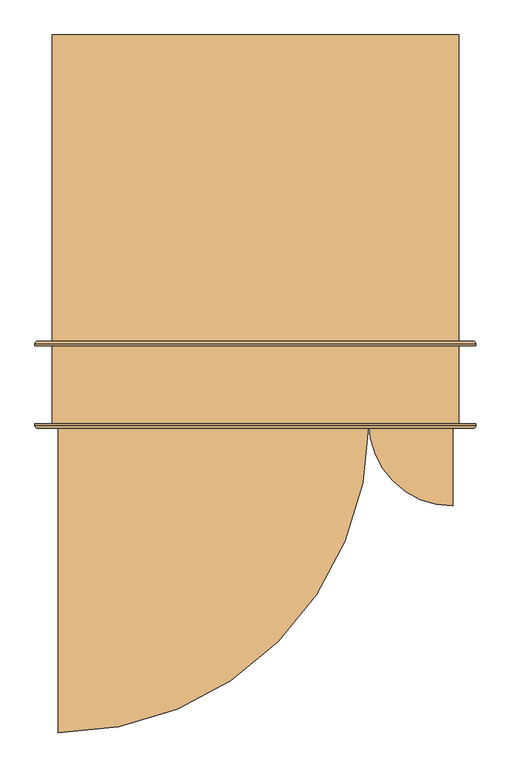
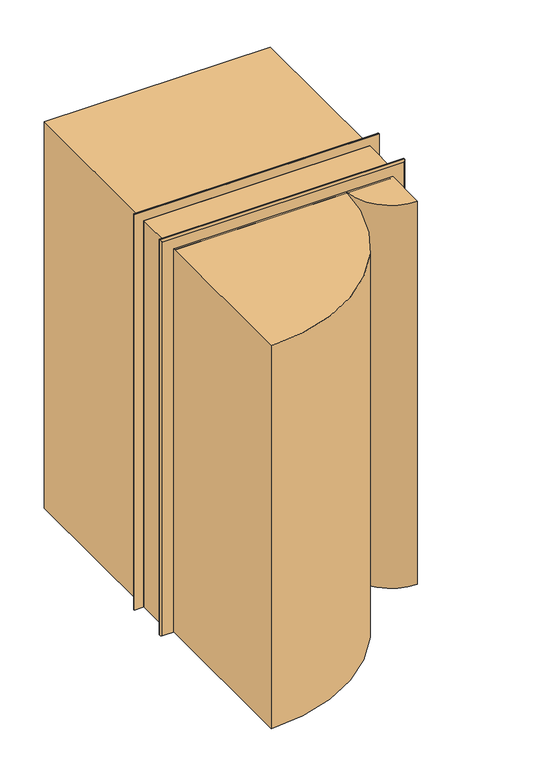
"""IFC4 building model written with IfcOpenShell, lengths in millimetres: door geometry, Дверь_Деревянная_Внутренняя_Двупольная_ГОСТ_475-2016 : 1310 х 2370(h)_Пр_с Порогом."""

from ifc_helpers import new_model, si_unit, point, frame, frame_2d, origin, origin_with_axes, place, context, project, spatial, polyline, circle_curve, ellipse_curve, trimmed, segment, composite_curve, outline, extrude, faceted_brep, source, transform, mapped, element, save
from ifc_brep_helpers import plane_surface, cylinder_surface, revolved_surface, advanced_brep


def door_8854af15(model_context):
    return source(origin(), model_context, "Body", "SolidModel", [
        extrude(outline(polyline([(-645.0, 519.0), (-645.0, 1519.0), (665.0, 1519.0), (665.0, 519.0), (-645.0, 519.0)])), origin_with_axes(), (0.0, 0.0, 1.0), 2370.0),
        extrude(outline(composite_curve([segment(polyline([(-625.0, -726.0), (-625.0, 274.0), (375.0, 274.0)]), True, "CONTINUOUS"), segment(trimmed(circle_curve(frame_2d((-625.0, 274.0)), 1000.0), [point((375.0, 274.0))], [point((-625.0, -726.0))], False, "CARTESIAN"), True, "CONTINUOUS")], self_intersect=False)), origin_with_axes(), (0.0, 0.0, 1.0), 2350.0),
        extrude(outline(composite_curve([segment(trimmed(circle_curve(frame_2d((645.0, 274.0)), 270.0), [point((645.0, 4.0))], [point((375.0, 274.0))], False, "CARTESIAN"), True, "CONTINUOUS"), segment(polyline([(375.0, 274.0), (645.0, 274.0), (645.0, 4.0)]), True, "CONTINUOUS")], self_intersect=False)), origin_with_axes(), (0.0, 0.0, 1.0), 2350.0),
        advanced_brep(
        [(410.0, 248.0, 1100.0), (420.0, 218.0, 1100.0), (450.0, 218.0, 1100.0), (460.0, 248.0, 1100.0), (417.0, 248.0, 1100.0), (453.0, 248.0, 1100.0), (425.0, 256.0, 1100.0), (445.0, 256.0, 1100.0), (425.0, 268.0, 1100.0), (445.0, 268.0, 1100.0), (435.0, 268.0, 1100.0), (435.0, 218.0, 1100.0)],
        [
            (0, 1, circle_curve(frame((444.6226265, 242.8742088, 1100.0), z_axis=(0.0, 0.0, 1.0), x_axis=(1.0, 0.0, 0.0)), 35.0)),
            (1, 2, circle_curve(frame((435.0, 218.0, 1100.0), z_axis=(0.0, 1.0, 0.0), x_axis=(1.0, 0.0, 0.0)), 15.0)),
            (2, 3, circle_curve(frame((425.3773735, 242.8742088, 1100.0), z_axis=(0.0, 0.0, 1.0), x_axis=(-1.0, 0.0, 0.0)), 35.0)),
            (3, 0, circle_curve(frame((435.0, 248.0, 1100.0), z_axis=(0.0, -1.0, 0.0), x_axis=(1.0, 0.0, 0.0)), 25.0)),
            (2, 1, circle_curve(frame((435.0, 218.0, 1100.0), z_axis=(0.0, 1.0, 0.0), x_axis=(1.0, 0.0, 0.0)), 15.0)),
            (0, 3, circle_curve(frame((435.0, 248.0, 1100.0), z_axis=(0.0, -1.0, 0.0), x_axis=(1.0, 0.0, 0.0)), 25.0)),
            (4, 0),
            (3, 5),
            (5, 4, circle_curve(frame((435.0, 248.0, 1100.0), z_axis=(0.0, -1.0, 0.0), x_axis=(1.0, 0.0, 0.0)), 18.0)),
            (4, 5, circle_curve(frame((435.0, 248.0, 1100.0), z_axis=(0.0, -1.0, 0.0), x_axis=(1.0, 0.0, 0.0)), 18.0)),
            (6, 4, circle_curve(frame((417.0, 256.0, 1100.0), z_axis=(0.0, 0.0, -1.0), x_axis=(1.0, 0.0, 0.0)), 8.0)),
            (5, 7, circle_curve(frame((453.0, 256.0, 1100.0), z_axis=(0.0, 0.0, -1.0), x_axis=(-1.0, 0.0, 0.0)), 8.0)),
            (7, 6, circle_curve(frame((435.0, 256.0, 1100.0), z_axis=(0.0, -1.0, 0.0), x_axis=(1.0, 0.0, 0.0)), 10.0)),
            (6, 7, circle_curve(frame((435.0, 256.0, 1100.0), z_axis=(0.0, -1.0, 0.0), x_axis=(1.0, 0.0, 0.0)), 10.0)),
            (8, 6),
            (7, 9),
            (9, 8, circle_curve(frame((435.0, 268.0, 1100.0), z_axis=(0.0, -1.0, 0.0), x_axis=(1.0, 0.0, 0.0)), 10.0)),
            (8, 9, circle_curve(frame((435.0, 268.0, 1100.0), z_axis=(0.0, -1.0, 0.0), x_axis=(1.0, 0.0, 0.0)), 10.0)),
            (10, 8),
            (9, 10),
            (1, 11),
            (11, 2),
        ],
        [
            revolved_surface(trimmed(ellipse_curve(frame((425.3773735, 242.8742088, 1100.0), z_axis=(0.0, 0.0, 1.0), x_axis=(-1.0, 0.0, 0.0)), 35.0, 35.0), [point((450.0, 218.0, 1100.0))], [point((460.0, 248.0, 1100.0))], True, "CARTESIAN"), (435.0, 218.0, 1100.0), (0.0, 1.0, 0.0)),
            plane_surface(frame((435.0, 248.0, 1100.0), z_axis=(0.0, 1.0, 0.0), x_axis=(1.0, 0.0, 0.0))),
            revolved_surface(trimmed(ellipse_curve(frame((453.0, 256.0, 1100.0), z_axis=(0.0, 0.0, -1.0), x_axis=(-1.0, 0.0, 0.0)), 8.0, 8.0), [point((453.0, 248.0, 1100.0))], [point((445.0, 256.0, 1100.0))], True, "CARTESIAN"), (435.0, 218.0, 1100.0), (0.0, 1.0, 0.0)),
            cylinder_surface(frame((435.0, 218.0, 1100.0), z_axis=(0.0, 1.0, 0.0), x_axis=(1.0, 0.0, 0.0)), 10.0),
            plane_surface(frame((435.0, 268.0, 1100.0), z_axis=(0.0, 1.0, 0.0), x_axis=(1.0, 0.0, 0.0))),
            plane_surface(frame((435.0, 218.0, 1100.0), z_axis=(0.0, -1.0, 0.0), x_axis=(1.0, 0.0, 0.0))),
        ],
        [
            (0, [[1, 2, 3, 4]]),
            (0, [[-3, 5, -1, 6]]),
            (1, [[7, -4, 8, 9]]),
            (1, [[-8, -6, -7, 10]]),
            (2, [[11, -9, 12, 13]]),
            (2, [[-12, -10, -11, 14]]),
            (3, [[15, -13, 16, 17]]),
            (3, [[-16, -14, -15, 18]]),
            (4, [[19, -17, 20]]),
            (4, [[-20, -18, -19]]),
            (5, [[21, 22, -2]]),
            (5, [[-22, -21, -5]]),
        ],
    ),
        extrude(outline(composite_curve([segment(trimmed(circle_curve(frame_2d((1100.0, 435.0)), 30.0), [point((1100.0, 465.0))], [point((1100.0, 405.0))], False, "CARTESIAN"), True, "CONTINUOUS"), segment(trimmed(circle_curve(frame_2d((1100.0, 435.0)), 30.0), [point((1100.0, 405.0))], [point((1100.0, 465.0))], False, "CARTESIAN"), True, "CONTINUOUS")], self_intersect=False)), frame((0.0, 268.0, 0.0), z_axis=(0.0, 1.0, 0.0), x_axis=(0.0, 0.0, 1.0)), (0.0, 0.0, 1.0), 6.0),
        advanced_brep(
        [(460.0, 349.0, 1100.0), (450.0, 379.0, 1100.0), (420.0, 379.0, 1100.0), (410.0, 349.0, 1100.0), (453.0, 349.0, 1100.0), (417.0, 349.0, 1100.0), (445.0, 341.0, 1100.0), (425.0, 341.0, 1100.0), (445.0, 329.0, 1100.0), (425.0, 329.0, 1100.0), (435.0, 329.0, 1100.0), (435.0, 379.0, 1100.0)],
        [
            (0, 1, circle_curve(frame((425.3773735, 354.1257912, 1100.0), z_axis=(0.0, 0.0, 1.0), x_axis=(-1.0, 0.0, 0.0)), 35.0)),
            (1, 2, circle_curve(frame((435.0, 379.0, 1100.0), z_axis=(0.0, -1.0, 0.0), x_axis=(-1.0, 0.0, 0.0)), 15.0)),
            (2, 3, circle_curve(frame((444.6226265, 354.1257912, 1100.0), z_axis=(0.0, 0.0, 1.0), x_axis=(1.0, 0.0, 0.0)), 35.0)),
            (3, 0, circle_curve(frame((435.0, 349.0, 1100.0), z_axis=(0.0, 1.0, 0.0), x_axis=(-1.0, 0.0, 0.0)), 25.0)),
            (2, 1, circle_curve(frame((435.0, 379.0, 1100.0), z_axis=(0.0, -1.0, 0.0), x_axis=(-1.0, 0.0, 0.0)), 15.0)),
            (0, 3, circle_curve(frame((435.0, 349.0, 1100.0), z_axis=(0.0, 1.0, 0.0), x_axis=(-1.0, 0.0, 0.0)), 25.0)),
            (4, 0),
            (3, 5),
            (5, 4, circle_curve(frame((435.0, 349.0, 1100.0), z_axis=(0.0, 1.0, 0.0), x_axis=(-1.0, 0.0, 0.0)), 18.0)),
            (4, 5, circle_curve(frame((435.0, 349.0, 1100.0), z_axis=(0.0, 1.0, 0.0), x_axis=(-1.0, 0.0, 0.0)), 18.0)),
            (6, 4, circle_curve(frame((453.0, 341.0, 1100.0), z_axis=(0.0, 0.0, -1.0), x_axis=(-1.0, 0.0, 0.0)), 8.0)),
            (5, 7, circle_curve(frame((417.0, 341.0, 1100.0), z_axis=(0.0, 0.0, -1.0), x_axis=(1.0, 0.0, 0.0)), 8.0)),
            (7, 6, circle_curve(frame((435.0, 341.0, 1100.0), z_axis=(0.0, 1.0, 0.0), x_axis=(-1.0, 0.0, 0.0)), 10.0)),
            (6, 7, circle_curve(frame((435.0, 341.0, 1100.0), z_axis=(0.0, 1.0, 0.0), x_axis=(-1.0, 0.0, 0.0)), 10.0)),
            (8, 6),
            (7, 9),
            (9, 8, circle_curve(frame((435.0, 329.0, 1100.0), z_axis=(0.0, 1.0, 0.0), x_axis=(-1.0, 0.0, 0.0)), 10.0)),
            (8, 9, circle_curve(frame((435.0, 329.0, 1100.0), z_axis=(0.0, 1.0, 0.0), x_axis=(-1.0, 0.0, 0.0)), 10.0)),
            (10, 8),
            (9, 10),
            (1, 11),
            (11, 2),
        ],
        [
            revolved_surface(trimmed(ellipse_curve(frame((444.6226265, 354.1257912, 1100.0), z_axis=(0.0, 0.0, 1.0), x_axis=(1.0, 0.0, 0.0)), 35.0, 35.0), [point((420.0, 379.0, 1100.0))], [point((410.0, 349.0, 1100.0))], True, "CARTESIAN"), (435.0, 379.0, 1100.0), (0.0, -1.0, 0.0)),
            plane_surface(frame((435.0, 349.0, 1100.0), z_axis=(0.0, -1.0, 0.0), x_axis=(-1.0, 0.0, 0.0))),
            revolved_surface(trimmed(ellipse_curve(frame((417.0, 341.0, 1100.0), z_axis=(0.0, 0.0, -1.0), x_axis=(1.0, 0.0, 0.0)), 8.0, 8.0), [point((417.0, 349.0, 1100.0))], [point((425.0, 341.0, 1100.0))], True, "CARTESIAN"), (435.0, 379.0, 1100.0), (0.0, -1.0, 0.0)),
            cylinder_surface(frame((435.0, 379.0, 1100.0), z_axis=(0.0, -1.0, 0.0), x_axis=(-1.0, 0.0, 0.0)), 10.0),
            plane_surface(frame((435.0, 329.0, 1100.0), z_axis=(0.0, -1.0, 0.0), x_axis=(-1.0, 0.0, 0.0))),
            plane_surface(frame((435.0, 379.0, 1100.0), z_axis=(0.0, 1.0, 0.0), x_axis=(-1.0, 0.0, 0.0))),
        ],
        [
            (0, [[1, 2, 3, 4]]),
            (0, [[-3, 5, -1, 6]]),
            (1, [[7, -4, 8, 9]]),
            (1, [[-8, -6, -7, 10]]),
            (2, [[11, -9, 12, 13]]),
            (2, [[-12, -10, -11, 14]]),
            (3, [[15, -13, 16, 17]]),
            (3, [[-16, -14, -15, 18]]),
            (4, [[19, -17, 20]]),
            (4, [[-20, -18, -19]]),
            (5, [[21, 22, -2]]),
            (5, [[-22, -21, -5]]),
        ],
    ),
        extrude(outline(composite_curve([segment(trimmed(circle_curve(frame_2d((1100.0, 435.0)), 30.0), [point((1100.0, 405.0))], [point((1100.0, 465.0))], False, "CARTESIAN"), True, "CONTINUOUS"), segment(trimmed(circle_curve(frame_2d((1100.0, 435.0)), 30.0), [point((1100.0, 465.0))], [point((1100.0, 405.0))], False, "CARTESIAN"), True, "CONTINUOUS")], self_intersect=False)), frame((0.0, 323.0, 0.0), z_axis=(0.0, 1.0, 0.0), x_axis=(0.0, 0.0, 1.0)), (0.0, 0.0, 1.0), 6.0),
        advanced_brep(
        [(340.0, 248.0, 1100.0), (290.0, 248.0, 1100.0), (300.0, 218.0, 1100.0), (330.0, 218.0, 1100.0), (333.0, 248.0, 1100.0), (297.0, 248.0, 1100.0), (325.0, 256.0, 1100.0), (305.0, 256.0, 1100.0), (325.0, 268.0, 1100.0), (305.0, 268.0, 1100.0), (315.0, 268.0, 1100.0), (315.0, 218.0, 1100.0)],
        [
            (0, 1, circle_curve(frame((315.0, 248.0, 1100.0), z_axis=(0.0, -1.0, 0.0), x_axis=(-1.0, 0.0, 0.0)), 25.0)),
            (1, 2, circle_curve(frame((324.6226265, 242.8742088, 1100.0), z_axis=(0.0, 0.0, 1.0), x_axis=(1.0, 0.0, 0.0)), 35.0)),
            (2, 3, circle_curve(frame((315.0, 218.0, 1100.0), z_axis=(0.0, 1.0, 0.0), x_axis=(-1.0, 0.0, 0.0)), 15.0)),
            (3, 0, circle_curve(frame((305.3773735, 242.8742088, 1100.0), z_axis=(0.0, 0.0, 1.0), x_axis=(-1.0, 0.0, 0.0)), 35.0)),
            (1, 0, circle_curve(frame((315.0, 248.0, 1100.0), z_axis=(0.0, -1.0, 0.0), x_axis=(-1.0, 0.0, 0.0)), 25.0)),
            (3, 2, circle_curve(frame((315.0, 218.0, 1100.0), z_axis=(0.0, 1.0, 0.0), x_axis=(-1.0, 0.0, 0.0)), 15.0)),
            (4, 5, circle_curve(frame((315.0, 248.0, 1100.0), z_axis=(0.0, -1.0, 0.0), x_axis=(-1.0, 0.0, 0.0)), 18.0)),
            (5, 1),
            (0, 4),
            (5, 4, circle_curve(frame((315.0, 248.0, 1100.0), z_axis=(0.0, -1.0, 0.0), x_axis=(-1.0, 0.0, 0.0)), 18.0)),
            (6, 7, circle_curve(frame((315.0, 256.0, 1100.0), z_axis=(0.0, -1.0, 0.0), x_axis=(-1.0, 0.0, 0.0)), 10.0)),
            (7, 5, circle_curve(frame((297.0, 256.0, 1100.0), z_axis=(0.0, 0.0, -1.0), x_axis=(1.0, 0.0, 0.0)), 8.0)),
            (4, 6, circle_curve(frame((333.0, 256.0, 1100.0), z_axis=(0.0, 0.0, -1.0), x_axis=(-1.0, 0.0, 0.0)), 8.0)),
            (7, 6, circle_curve(frame((315.0, 256.0, 1100.0), z_axis=(0.0, -1.0, 0.0), x_axis=(-1.0, 0.0, 0.0)), 10.0)),
            (8, 9, circle_curve(frame((315.0, 268.0, 1100.0), z_axis=(0.0, -1.0, 0.0), x_axis=(-1.0, 0.0, 0.0)), 10.0)),
            (9, 7),
            (6, 8),
            (9, 8, circle_curve(frame((315.0, 268.0, 1100.0), z_axis=(0.0, -1.0, 0.0), x_axis=(-1.0, 0.0, 0.0)), 10.0)),
            (10, 9),
            (8, 10),
            (2, 11),
            (11, 3),
        ],
        [
            revolved_surface(trimmed(ellipse_curve(frame((324.6226265, 242.8742088, 1100.0), z_axis=(0.0, 0.0, -1.0), x_axis=(1.0, 0.0, 0.0)), 35.0, 35.0), [point((300.0, 218.0, 1100.0))], [point((290.0, 248.0, 1100.0))], True, "CARTESIAN"), (315.0, 218.0, 1100.0), (0.0, 1.0, 0.0)),
            plane_surface(frame((315.0, 248.0, 1100.0), z_axis=(0.0, 1.0, 0.0), x_axis=(-1.0, 0.0, 0.0))),
            revolved_surface(trimmed(ellipse_curve(frame((297.0, 256.0, 1100.0), z_axis=(0.0, 0.0, 1.0), x_axis=(1.0, 0.0, 0.0)), 8.0, 8.0), [point((297.0, 248.0, 1100.0))], [point((305.0, 256.0, 1100.0))], True, "CARTESIAN"), (315.0, 218.0, 1100.0), (0.0, 1.0, 0.0)),
            cylinder_surface(frame((315.0, 218.0, 1100.0), z_axis=(0.0, 1.0, 0.0), x_axis=(-1.0, 0.0, 0.0)), 10.0),
            plane_surface(frame((315.0, 268.0, 1100.0), z_axis=(0.0, 1.0, 0.0), x_axis=(-1.0, 0.0, 0.0))),
            plane_surface(frame((315.0, 218.0, 1100.0), z_axis=(0.0, -1.0, 0.0), x_axis=(-1.0, 0.0, 0.0))),
        ],
        [
            (0, [[1, 2, 3, 4]]),
            (0, [[5, -4, 6, -2]]),
            (1, [[7, 8, -1, 9]]),
            (1, [[10, -9, -5, -8]]),
            (2, [[11, 12, -7, 13]]),
            (2, [[14, -13, -10, -12]]),
            (3, [[15, 16, -11, 17]]),
            (3, [[18, -17, -14, -16]]),
            (4, [[19, -15, 20]]),
            (4, [[-20, -18, -19]]),
            (5, [[-3, 21, 22]]),
            (5, [[-6, -22, -21]]),
        ],
    ),
        extrude(outline(composite_curve([segment(trimmed(circle_curve(frame_2d((1100.0, 315.0)), 30.0), [point((1100.0, 285.0))], [point((1100.0, 345.0))], False, "CARTESIAN"), True, "CONTINUOUS"), segment(trimmed(circle_curve(frame_2d((1100.0, 315.0)), 30.0), [point((1100.0, 345.0))], [point((1100.0, 285.0))], False, "CARTESIAN"), True, "CONTINUOUS")], self_intersect=False)), frame((0.0, 268.0, 0.0), z_axis=(0.0, 1.0, 0.0), x_axis=(0.0, 0.0, 1.0)), (0.0, 0.0, 1.0), 6.0),
        advanced_brep(
        [(290.0, 349.0, 1100.0), (340.0, 349.0, 1100.0), (330.0, 379.0, 1100.0), (300.0, 379.0, 1100.0), (297.0, 349.0, 1100.0), (333.0, 349.0, 1100.0), (305.0, 341.0, 1100.0), (325.0, 341.0, 1100.0), (305.0, 329.0, 1100.0), (325.0, 329.0, 1100.0), (315.0, 329.0, 1100.0), (315.0, 379.0, 1100.0)],
        [
            (0, 1, circle_curve(frame((315.0, 349.0, 1100.0), z_axis=(0.0, 1.0, 0.0), x_axis=(1.0, 0.0, 0.0)), 25.0)),
            (1, 2, circle_curve(frame((305.3773735, 354.1257912, 1100.0), z_axis=(0.0, 0.0, 1.0), x_axis=(-1.0, 0.0, 0.0)), 35.0)),
            (2, 3, circle_curve(frame((315.0, 379.0, 1100.0), z_axis=(0.0, -1.0, 0.0), x_axis=(1.0, 0.0, 0.0)), 15.0)),
            (3, 0, circle_curve(frame((324.6226265, 354.1257912, 1100.0), z_axis=(0.0, 0.0, 1.0), x_axis=(1.0, 0.0, 0.0)), 35.0)),
            (1, 0, circle_curve(frame((315.0, 349.0, 1100.0), z_axis=(0.0, 1.0, 0.0), x_axis=(1.0, 0.0, 0.0)), 25.0)),
            (3, 2, circle_curve(frame((315.0, 379.0, 1100.0), z_axis=(0.0, -1.0, 0.0), x_axis=(1.0, 0.0, 0.0)), 15.0)),
            (4, 5, circle_curve(frame((315.0, 349.0, 1100.0), z_axis=(0.0, 1.0, 0.0), x_axis=(1.0, 0.0, 0.0)), 18.0)),
            (5, 1),
            (0, 4),
            (5, 4, circle_curve(frame((315.0, 349.0, 1100.0), z_axis=(0.0, 1.0, 0.0), x_axis=(1.0, 0.0, 0.0)), 18.0)),
            (6, 7, circle_curve(frame((315.0, 341.0, 1100.0), z_axis=(0.0, 1.0, 0.0), x_axis=(1.0, 0.0, 0.0)), 10.0)),
            (7, 5, circle_curve(frame((333.0, 341.0, 1100.0), z_axis=(0.0, 0.0, -1.0), x_axis=(-1.0, 0.0, 0.0)), 8.0)),
            (4, 6, circle_curve(frame((297.0, 341.0, 1100.0), z_axis=(0.0, 0.0, -1.0), x_axis=(1.0, 0.0, 0.0)), 8.0)),
            (7, 6, circle_curve(frame((315.0, 341.0, 1100.0), z_axis=(0.0, 1.0, 0.0), x_axis=(1.0, 0.0, 0.0)), 10.0)),
            (8, 9, circle_curve(frame((315.0, 329.0, 1100.0), z_axis=(0.0, 1.0, 0.0), x_axis=(1.0, 0.0, 0.0)), 10.0)),
            (9, 7),
            (6, 8),
            (9, 8, circle_curve(frame((315.0, 329.0, 1100.0), z_axis=(0.0, 1.0, 0.0), x_axis=(1.0, 0.0, 0.0)), 10.0)),
            (10, 9),
            (8, 10),
            (2, 11),
            (11, 3),
        ],
        [
            revolved_surface(trimmed(ellipse_curve(frame((305.3773735, 354.1257912, 1100.0), z_axis=(0.0, 0.0, -1.0), x_axis=(-1.0, 0.0, 0.0)), 35.0, 35.0), [point((330.0, 379.0, 1100.0))], [point((340.0, 349.0, 1100.0))], True, "CARTESIAN"), (315.0, 379.0, 1100.0), (0.0, -1.0, 0.0)),
            plane_surface(frame((315.0, 349.0, 1100.0), z_axis=(0.0, -1.0, 0.0), x_axis=(1.0, 0.0, 0.0))),
            revolved_surface(trimmed(ellipse_curve(frame((333.0, 341.0, 1100.0), z_axis=(0.0, 0.0, 1.0), x_axis=(-1.0, 0.0, 0.0)), 8.0, 8.0), [point((333.0, 349.0, 1100.0))], [point((325.0, 341.0, 1100.0))], True, "CARTESIAN"), (315.0, 379.0, 1100.0), (0.0, -1.0, 0.0)),
            cylinder_surface(frame((315.0, 379.0, 1100.0), z_axis=(0.0, -1.0, 0.0), x_axis=(1.0, 0.0, 0.0)), 10.0),
            plane_surface(frame((315.0, 329.0, 1100.0), z_axis=(0.0, -1.0, 0.0), x_axis=(1.0, 0.0, 0.0))),
            plane_surface(frame((315.0, 379.0, 1100.0), z_axis=(0.0, 1.0, 0.0), x_axis=(1.0, 0.0, 0.0))),
        ],
        [
            (0, [[1, 2, 3, 4]]),
            (0, [[5, -4, 6, -2]]),
            (1, [[7, 8, -1, 9]]),
            (1, [[10, -9, -5, -8]]),
            (2, [[11, 12, -7, 13]]),
            (2, [[14, -13, -10, -12]]),
            (3, [[15, 16, -11, 17]]),
            (3, [[18, -17, -14, -16]]),
            (4, [[19, -15, 20]]),
            (4, [[-20, -18, -19]]),
            (5, [[-3, 21, 22]]),
            (5, [[-6, -22, -21]]),
        ],
    ),
        extrude(outline(composite_curve([segment(trimmed(circle_curve(frame_2d((1100.0, 315.0)), 30.0), [point((1100.0, 345.0))], [point((1100.0, 285.0))], False, "CARTESIAN"), True, "CONTINUOUS"), segment(trimmed(circle_curve(frame_2d((1100.0, 315.0)), 30.0), [point((1100.0, 285.0))], [point((1100.0, 345.0))], False, "CARTESIAN"), True, "CONTINUOUS")], self_intersect=False)), frame((0.0, 323.0, 0.0), z_axis=(0.0, 1.0, 0.0), x_axis=(0.0, 0.0, 1.0)), (0.0, 0.0, 1.0), 6.0),
        extrude(outline(polyline([(0.0, 645.0), (0.0, 665.0), (2370.0, 665.0), (2370.0, -645.0), (0.0, -645.0), (0.0, -625.0), (2350.0, -625.0), (2350.0, 645.0), (0.0, 645.0)])), frame((0.0, 269.0, 0.0), z_axis=(0.0, 1.0, 0.0), x_axis=(0.0, 0.0, 1.0)), (0.0, 0.0, 1.0), 250.0),
        advanced_brep(
        [(-700.0, 264.0, 0.0), (-700.0, 269.0, 0.0), (-610.0, 269.0, 0.0), (-610.0, 264.0, 0.0), (-620.0, 254.0, 0.0), (-690.0, 254.0, 0.0), (-700.0, 264.0, 2425.0), (-700.0, 269.0, 2425.0), (720.0, 269.0, 2425.0), (720.0, 269.0, 0.0), (630.0, 269.0, 0.0), (630.0, 269.0, 2335.0), (-610.0, 269.0, 2335.0), (-610.0, 264.0, 2335.0), (-620.0, 254.0, 2345.0), (640.0, 254.0, 2345.0), (640.0, 254.0, 0.0), (710.0, 254.0, 0.0), (710.0, 254.0, 2415.0), (-690.0, 254.0, 2415.0), (720.0, 264.0, 2425.0), (720.0, 264.0, 0.0), (630.0, 264.0, 0.0), (630.0, 264.0, 2335.0)],
        [
            (0, 1),
            (1, 2),
            (2, 3),
            (3, 4, circle_curve(frame((-620.0, 264.0, 0.0), z_axis=(0.0, 0.0, -1.0), x_axis=(1.0, 0.0, 0.0)), 10.0)),
            (4, 5),
            (5, 0, circle_curve(frame((-690.0, 264.0, 0.0), z_axis=(0.0, 0.0, -1.0), x_axis=(1.0, 0.0, 0.0)), 10.0)),
            (0, 6),
            (6, 7),
            (7, 1),
            (7, 8),
            (8, 9),
            (9, 10),
            (10, 11),
            (11, 12),
            (12, 2),
            (12, 13),
            (13, 3),
            (13, 14, ellipse_curve(frame((-620.0, 264.0, 2345.0), z_axis=(-0.7071067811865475, 0.0, -0.7071067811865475), x_axis=(0.7071067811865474, 0.0, -0.7071067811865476)), 14.1421356, 10.0)),
            (14, 4),
            (14, 15),
            (15, 16),
            (16, 17),
            (17, 18),
            (18, 19),
            (19, 5),
            (19, 6, ellipse_curve(frame((-690.0, 264.0, 2415.0), z_axis=(-0.7071067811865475, 0.0, -0.7071067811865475), x_axis=(0.7071067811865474, 0.0, -0.7071067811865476)), 14.1421356, 10.0)),
            (8, 20),
            (20, 21),
            (21, 9),
            (21, 17, circle_curve(frame((710.0, 264.0, 0.0), z_axis=(0.0, 0.0, -1.0), x_axis=(-1.0, 0.0, 0.0)), 10.0)),
            (16, 22, circle_curve(frame((640.0, 264.0, 0.0), z_axis=(0.0, 0.0, -1.0), x_axis=(-1.0, 0.0, 0.0)), 10.0)),
            (22, 10),
            (23, 11),
            (22, 23),
            (15, 23, ellipse_curve(frame((640.0, 264.0, 2345.0), z_axis=(0.7071067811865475, 0.0, -0.7071067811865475), x_axis=(0.7071067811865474, 0.0, 0.7071067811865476)), 14.1421356, 10.0)),
            (20, 18, ellipse_curve(frame((710.0, 264.0, 2415.0), z_axis=(0.7071067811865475, 0.0, -0.7071067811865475), x_axis=(0.7071067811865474, 0.0, 0.7071067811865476)), 14.1421356, 10.0)),
            (6, 20),
            (23, 13),
        ],
        [
            plane_surface(frame((-645.0, 269.0, 0.0), z_axis=(0.0, 0.0, -1.0), x_axis=(0.0, -1.0, 0.0))),
            plane_surface(frame((-700.0, 264.0, 0.0), z_axis=(-1.0, 0.0, 0.0), x_axis=(0.0, 0.0, 1.0))),
            plane_surface(frame((-700.0, 269.0, 0.0), z_axis=(0.0, 1.0, 0.0), x_axis=(0.0, 0.0, 1.0))),
            plane_surface(frame((-610.0, 269.0, 0.0), z_axis=(1.0, 0.0, 0.0), x_axis=(0.0, 0.0, 1.0))),
            cylinder_surface(frame((-620.0, 264.0, 0.0), z_axis=(0.0, 0.0, -1.0), x_axis=(1.0, 0.0, 0.0)), 10.0),
            plane_surface(frame((-620.0, 254.0, 0.0), z_axis=(0.0, -1.0, 0.0), x_axis=(0.0, 0.0, 1.0))),
            cylinder_surface(frame((-690.0, 264.0, 0.0), z_axis=(0.0, 0.0, -1.0), x_axis=(1.0, 0.0, 0.0)), 10.0),
            plane_surface(frame((720.0, 264.0, 2425.0), z_axis=(1.0, 0.0, 0.0), x_axis=(0.0, 0.0, -1.0))),
            plane_surface(frame((665.0, 269.0, 0.0), z_axis=(0.0, 0.0, -1.0), x_axis=(0.0, -1.0, 0.0))),
            plane_surface(frame((630.0, 269.0, 2335.0), z_axis=(-1.0, 0.0, 0.0), x_axis=(0.0, 0.0, -1.0))),
            cylinder_surface(frame((640.0, 264.0, 2370.0), z_axis=(0.0, 0.0, 1.0), x_axis=(-1.0, 0.0, 0.0)), 10.0),
            cylinder_surface(frame((710.0, 264.0, 2370.0), z_axis=(0.0, 0.0, 1.0), x_axis=(-1.0, 0.0, 0.0)), 10.0),
            plane_surface(frame((-700.0, 264.0, 2425.0), z_axis=(0.0, 0.0, 1.0), x_axis=(1.0, 0.0, 0.0))),
            plane_surface(frame((-610.0, 269.0, 2335.0), z_axis=(0.0, 0.0, -1.0), x_axis=(1.0, 0.0, 0.0))),
            cylinder_surface(frame((-645.0, 264.0, 2345.0), z_axis=(-1.0, 0.0, 0.0), x_axis=(0.0, 0.0, -1.0)), 10.0),
            cylinder_surface(frame((-645.0, 264.0, 2415.0), z_axis=(-1.0, 0.0, 0.0), x_axis=(0.0, 0.0, -1.0)), 10.0),
        ],
        [
            (0, [[1, 2, 3, 4, 5, 6]]),
            (1, [[-1, 7, 8, 9]]),
            (2, [[-2, -9, 10, 11, 12, 13, 14, 15]]),
            (3, [[-3, -15, 16, 17]]),
            (4, [[-4, -17, 18, 19]]),
            (5, [[-5, -19, 20, 21, 22, 23, 24, 25]]),
            (6, [[-6, -25, 26, -7]]),
            (7, [[27, 28, 29, -11]]),
            (8, [[30, -22, 31, 32, -12, -29]]),
            (9, [[33, -13, -32, 34]]),
            (10, [[35, -34, -31, -21]]),
            (11, [[36, -23, -30, -28]]),
            (12, [[-8, 37, -27, -10]]),
            (13, [[-16, -14, -33, 38]]),
            (14, [[-18, -38, -35, -20]]),
            (15, [[-26, -24, -36, -37]]),
        ],
    ),
        advanced_brep(
        [(720.0, 524.0, 0.0), (720.0, 519.0, 0.0), (630.0, 519.0, 0.0), (630.0, 524.0, 0.0), (640.0, 534.0, 0.0), (710.0, 534.0, 0.0), (720.0, 524.0, 2425.0), (720.0, 519.0, 2425.0), (-700.0, 519.0, 2425.0), (-700.0, 519.0, 0.0), (-610.0, 519.0, 0.0), (-610.0, 519.0, 2335.0), (630.0, 519.0, 2335.0), (630.0, 524.0, 2335.0), (640.0, 534.0, 2345.0), (-620.0, 534.0, 2345.0), (-620.0, 534.0, 0.0), (-690.0, 534.0, 0.0), (-690.0, 534.0, 2415.0), (710.0, 534.0, 2415.0), (-700.0, 524.0, 2425.0), (-700.0, 524.0, 0.0), (-610.0, 524.0, 0.0), (-610.0, 524.0, 2335.0)],
        [
            (0, 1),
            (1, 2),
            (2, 3),
            (3, 4, circle_curve(frame((640.0, 524.0, 0.0), z_axis=(0.0, 0.0, -1.0), x_axis=(-1.0, 0.0, 0.0)), 10.0)),
            (4, 5),
            (5, 0, circle_curve(frame((710.0, 524.0, 0.0), z_axis=(0.0, 0.0, -1.0), x_axis=(-1.0, 0.0, 0.0)), 10.0)),
            (0, 6),
            (6, 7),
            (7, 1),
            (7, 8),
            (8, 9),
            (9, 10),
            (10, 11),
            (11, 12),
            (12, 2),
            (12, 13),
            (13, 3),
            (13, 14, ellipse_curve(frame((640.0, 524.0, 2345.0), z_axis=(0.7071067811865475, 0.0, -0.7071067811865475), x_axis=(-0.7071067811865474, 0.0, -0.7071067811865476)), 14.1421356, 10.0)),
            (14, 4),
            (14, 15),
            (15, 16),
            (16, 17),
            (17, 18),
            (18, 19),
            (19, 5),
            (19, 6, ellipse_curve(frame((710.0, 524.0, 2415.0), z_axis=(0.7071067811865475, 0.0, -0.7071067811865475), x_axis=(-0.7071067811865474, 0.0, -0.7071067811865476)), 14.1421356, 10.0)),
            (8, 20),
            (20, 21),
            (21, 9),
            (21, 17, circle_curve(frame((-690.0, 524.0, 0.0), z_axis=(0.0, 0.0, -1.0), x_axis=(1.0, 0.0, 0.0)), 10.0)),
            (16, 22, circle_curve(frame((-620.0, 524.0, 0.0), z_axis=(0.0, 0.0, -1.0), x_axis=(1.0, 0.0, 0.0)), 10.0)),
            (22, 10),
            (23, 11),
            (22, 23),
            (15, 23, ellipse_curve(frame((-620.0, 524.0, 2345.0), z_axis=(-0.7071067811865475, 0.0, -0.7071067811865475), x_axis=(-0.7071067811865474, 0.0, 0.7071067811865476)), 14.1421356, 10.0)),
            (20, 18, ellipse_curve(frame((-690.0, 524.0, 2415.0), z_axis=(-0.7071067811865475, 0.0, -0.7071067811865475), x_axis=(-0.7071067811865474, 0.0, 0.7071067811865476)), 14.1421356, 10.0)),
            (6, 20),
            (23, 13),
        ],
        [
            plane_surface(frame((665.0, 519.0, 0.0), z_axis=(0.0, 0.0, -1.0), x_axis=(0.0, -1.0, 0.0))),
            plane_surface(frame((720.0, 524.0, 0.0), z_axis=(1.0, 0.0, 0.0), x_axis=(0.0, 0.0, 1.0))),
            plane_surface(frame((720.0, 519.0, 0.0), z_axis=(0.0, -1.0, 0.0), x_axis=(0.0, 0.0, 1.0))),
            plane_surface(frame((630.0, 519.0, 0.0), z_axis=(-1.0, 0.0, 0.0), x_axis=(0.0, 0.0, 1.0))),
            cylinder_surface(frame((640.0, 524.0, 0.0), z_axis=(0.0, 0.0, -1.0), x_axis=(-1.0, 0.0, 0.0)), 10.0),
            plane_surface(frame((640.0, 534.0, 0.0), z_axis=(0.0, 1.0, 0.0), x_axis=(0.0, 0.0, 1.0))),
            cylinder_surface(frame((710.0, 524.0, 0.0), z_axis=(0.0, 0.0, -1.0), x_axis=(-1.0, 0.0, 0.0)), 10.0),
            plane_surface(frame((-700.0, 524.0, 2425.0), z_axis=(-1.0, 0.0, 0.0), x_axis=(0.0, 0.0, -1.0))),
            plane_surface(frame((-645.0, 519.0, 0.0), z_axis=(0.0, 0.0, -1.0), x_axis=(0.0, -1.0, 0.0))),
            plane_surface(frame((-610.0, 519.0, 2335.0), z_axis=(1.0, 0.0, 0.0), x_axis=(0.0, 0.0, -1.0))),
            cylinder_surface(frame((-620.0, 524.0, 2370.0), z_axis=(0.0, 0.0, 1.0), x_axis=(1.0, 0.0, 0.0)), 10.0),
            cylinder_surface(frame((-690.0, 524.0, 2370.0), z_axis=(0.0, 0.0, 1.0), x_axis=(1.0, 0.0, 0.0)), 10.0),
            plane_surface(frame((720.0, 524.0, 2425.0), z_axis=(0.0, 0.0, 1.0), x_axis=(-1.0, 0.0, 0.0))),
            plane_surface(frame((630.0, 519.0, 2335.0), z_axis=(0.0, 0.0, -1.0), x_axis=(-1.0, 0.0, 0.0))),
            cylinder_surface(frame((665.0, 524.0, 2345.0), z_axis=(1.0, 0.0, 0.0), x_axis=(0.0, 0.0, -1.0)), 10.0),
            cylinder_surface(frame((665.0, 524.0, 2415.0), z_axis=(1.0, 0.0, 0.0), x_axis=(0.0, 0.0, -1.0)), 10.0),
        ],
        [
            (0, [[1, 2, 3, 4, 5, 6]]),
            (1, [[-1, 7, 8, 9]]),
            (2, [[-2, -9, 10, 11, 12, 13, 14, 15]]),
            (3, [[-3, -15, 16, 17]]),
            (4, [[-4, -17, 18, 19]]),
            (5, [[-5, -19, 20, 21, 22, 23, 24, 25]]),
            (6, [[-6, -25, 26, -7]]),
            (7, [[27, 28, 29, -11]]),
            (8, [[30, -22, 31, 32, -12, -29]]),
            (9, [[33, -13, -32, 34]]),
            (10, [[35, -34, -31, -21]]),
            (11, [[36, -23, -30, -28]]),
            (12, [[-8, 37, -27, -10]]),
            (13, [[-16, -14, -33, 38]]),
            (14, [[-18, -38, -35, -20]]),
            (15, [[-26, -24, -36, -37]]),
        ],
    ),
        extrude(outline(polyline([(605.0, 323.0), (605.0, 269.0), (-585.0, 269.0), (-585.0, 323.0), (605.0, 323.0)])), origin_with_axes(), (0.0, 0.0, 1.0), 45.0),
        extrude(outline(polyline([(600.0, 323.0), (600.0, 274.0), (375.0, 274.0), (375.0, 323.0), (600.0, 323.0)])), frame((0.0, 0.0, 45.0), z_axis=(0.0, 0.0, 1.0), x_axis=(1.0, 0.0, 0.0)), (0.0, 0.0, 1.0), 2260.0),
        extrude(outline(polyline([(375.0, 323.0), (375.0, 274.0), (-580.0, 274.0), (-580.0, 323.0), (375.0, 323.0)])), frame((0.0, 0.0, 45.0), z_axis=(0.0, 0.0, 1.0), x_axis=(1.0, 0.0, 0.0)), (0.0, 0.0, 1.0), 2260.0),
        faceted_brep([(630.0, 519.0, 0.0), (645.0, 519.0, 0.0), (645.0, 368.0, 0.0), (630.0, 368.0, 0.0), (630.0, 519.0, 2335.0), (-610.0, 519.0, 2335.0), (-610.0, 519.0, 0.0), (-625.0, 519.0, 0.0), (-625.0, 519.0, 2350.0), (645.0, 519.0, 2350.0), (645.0, 368.0, 2350.0), (630.0, 368.0, 15.0), (630.0, 368.0, 2335.0), (-625.0, 368.0, 2350.0), (-610.0, 368.0, 2335.0), (-610.0, 368.0, 0.0), (-625.0, 368.0, 0.0), (-610.0, 368.0, 15.0)], [[[0, 1, 2, 3]], [[1, 0, 4, 5, 6, 7, 8, 9]], [[1, 9, 10, 2]], [[4, 0, 3, 11, 12]], [[9, 8, 13, 10]], [[5, 4, 12, 14]], [[7, 6, 15, 16]], [[8, 7, 16, 13]], [[6, 5, 14, 17, 15]], [[3, 2, 10, 13, 16, 15, 17, 14, 12, 11]]]),
        faceted_brep([(645.0, 269.0, 0.0), (630.0, 269.0, 0.0), (630.0, 274.0, 0.0), (645.0, 274.0, 0.0), (645.0, 269.0, 2350.0), (645.0, 274.0, 2350.0), (-625.0, 269.0, 2350.0), (-625.0, 269.0, 0.0), (-610.0, 269.0, 0.0), (-610.0, 269.0, 2335.0), (630.0, 269.0, 2335.0), (630.0, 274.0, 2335.0), (630.0, 274.0, 15.0), (-625.0, 274.0, 2350.0), (-610.0, 274.0, 2335.0), (-625.0, 274.0, 0.0), (-610.0, 274.0, 0.0), (-610.0, 274.0, 15.0)], [[[0, 1, 2, 3]], [[4, 0, 3, 5]], [[1, 0, 4, 6, 7, 8, 9, 10]], [[1, 10, 11, 12, 2]], [[6, 4, 5, 13]], [[10, 9, 14, 11]], [[8, 7, 15, 16]], [[7, 6, 13, 15]], [[9, 8, 16, 17, 14]], [[3, 2, 12, 11, 14, 17, 16, 15, 13, 5]]]),
        faceted_brep([(590.0, 368.0, 0.0), (645.0, 368.0, 0.0), (645.0, 274.0, 0.0), (605.0, 274.0, 0.0), (605.0, 328.0, 0.0), (590.0, 328.0, 0.0), (590.0, 368.0, 2295.0), (-570.0, 368.0, 2295.0), (-570.0, 368.0, 0.0), (-625.0, 368.0, 0.0), (-625.0, 368.0, 2350.0), (645.0, 368.0, 2350.0), (645.0, 274.0, 2350.0), (-625.0, 274.0, 2350.0), (-625.0, 274.0, 0.0), (-585.0, 274.0, 0.0), (-585.0, 274.0, 2310.0), (605.0, 274.0, 2310.0), (605.0, 328.0, 2310.0), (-585.0, 328.0, 2310.0), (-585.0, 328.0, 0.0), (-570.0, 328.0, 0.0), (-570.0, 328.0, 2295.0), (590.0, 328.0, 2295.0)], [[[0, 1, 2, 3, 4, 5]], [[1, 0, 6, 7, 8, 9, 10, 11]], [[2, 1, 11, 12]], [[3, 2, 12, 13, 14, 15, 16, 17]], [[4, 3, 17, 18]], [[5, 4, 18, 19, 20, 21, 22, 23]], [[0, 5, 23, 6]], [[12, 11, 10, 13]], [[18, 17, 16, 19]], [[6, 23, 22, 7]], [[8, 21, 20, 15, 14, 9]], [[13, 10, 9, 14]], [[19, 16, 15, 20]], [[7, 22, 21, 8]]]),
    ])


if __name__ == "__main__":
    model = new_model("IFC4")
    model_context = context("Model", 3, world=origin())
    ifc_project = project(units=[si_unit("LENGTHUNIT", "METRE", prefix="MILLI")], contexts=[model_context])
    site = spatial("IfcSite", under=ifc_project)
    building = spatial("IfcBuilding", under=site)
    placement = place(None, origin())
    door_shape = door_8854af15(model_context)
    element("IfcDoor", 1, ObjectType="Дверь_Деревянная_Внутренняя_Двупольная_ГОСТ_475-2016 : 1310 х 2370(h)_Пр_с Порогом", at=placement, inside=building, context=model_context, shape_type="MappedRepresentation", body=[
        mapped(door_shape, transform((0.0, 0.0, 0.0), x_axis=(1.0, 0.0, 0.0), y_axis=(0.0, 1.0, 0.0), z_axis=(0.0, 0.0, 1.0))),
    ])
    save(model, "model.ifc")
